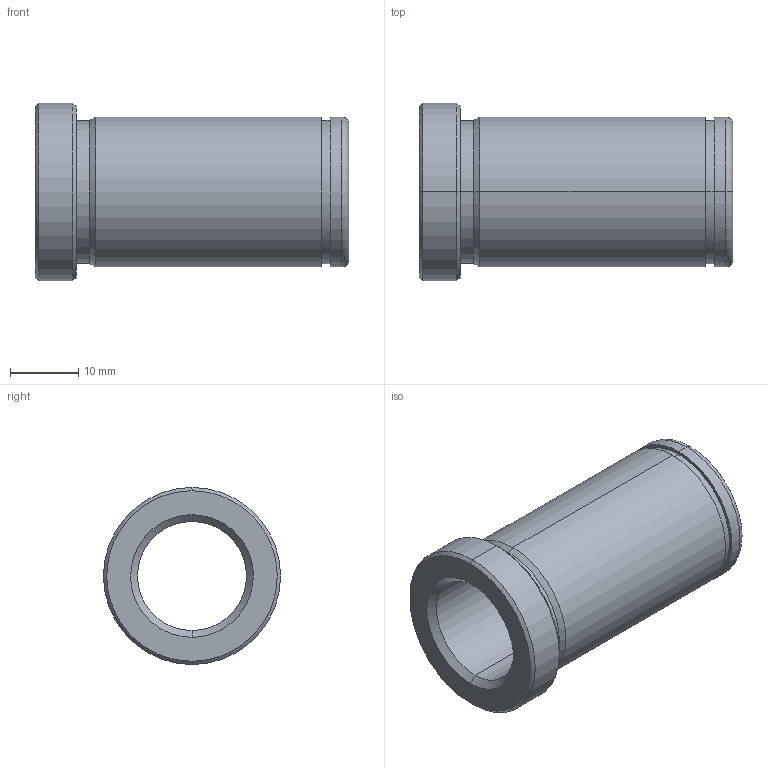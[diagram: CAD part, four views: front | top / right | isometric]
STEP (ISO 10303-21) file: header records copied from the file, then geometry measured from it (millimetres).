
FILE_DESCRIPTION(('CATIA V5 STEP Exchange'),'2;1');
FILE_NAME('C:\Users\Utente\Desktop\IO LAVORO\3D X SITO CF\X SITO\PLASTICA\553\553-16X46.stp','2021-05-21T18:57:11+00:00',('none'),('none'),'CATIA Version 5 Release 20 GA (IN-10)','CATIA V5 STEP AP203','none');
FILE_SCHEMA(('CONFIG_CONTROL_DESIGN'));
Length unit declared in the file: millimetre
Products named in the file (1): 553-16X46
Bounding box: 46 x 26 x 26 mm (x, y, z)
Volume: 8929.7 mm3; surface area: 6187.2 mm2
Topology: 1 solids, 1 shells, 29 faces, 92 edges, 68 vertices
Faces by surface type: cylinder 12, cone 8, plane 5, torus 4
Entity records: 1222 total; most frequent: CARTESIAN_POINT 368, ORIENTED_EDGE 184, DIRECTION 136, EDGE_CURVE 92, AXIS2_PLACEMENT_3D 88, VERTEX_POINT 68, CIRCLE 58, EDGE_LOOP 34
